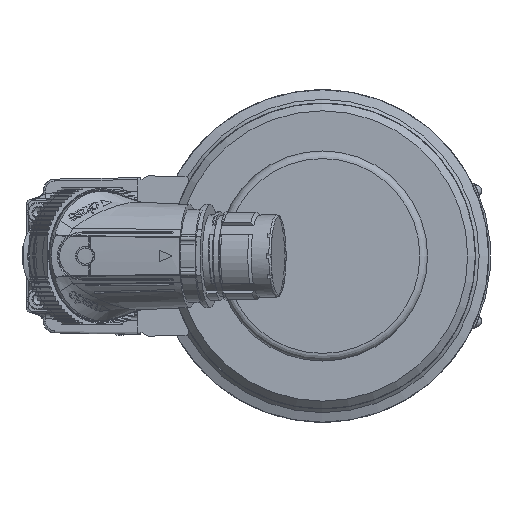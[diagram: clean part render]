
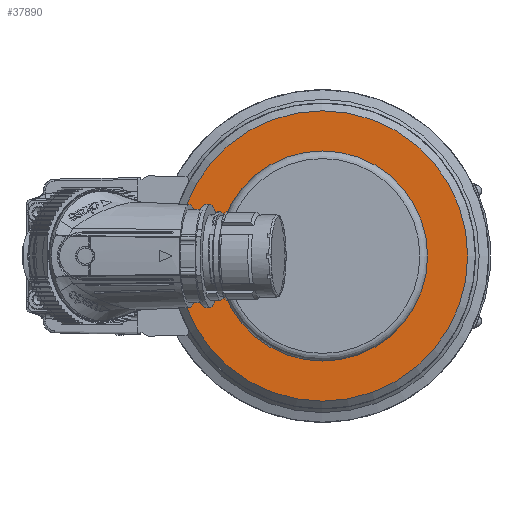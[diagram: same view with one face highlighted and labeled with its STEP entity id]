
A CAD part, left-side view. The second image highlights one B-rep face of the part: STEP entity #37890.
In plain terms, the highlighted planar face has unit normal (-1, 0, 0).
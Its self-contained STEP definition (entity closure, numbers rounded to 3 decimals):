
#781 = CARTESIAN_POINT ( 'NONE',  ( -392.7, 0., 0. ) ) ;
#2156 = CIRCLE ( 'NONE', #12095, 37.999 ) ;
#7287 = CARTESIAN_POINT ( 'NONE',  ( -392.7, 27.5, 0. ) ) ;
#7598 = DIRECTION ( 'NONE',  ( 0., 0., 1. ) ) ;
#10187 = CARTESIAN_POINT ( 'NONE',  ( -392.7, 0., 0. ) ) ;
#10944 = ORIENTED_EDGE ( 'NONE', *, *, #39646, .T. ) ;
#12095 = AXIS2_PLACEMENT_3D ( 'NONE', #781, #47289, #7598 ) ;
#13875 = FACE_OUTER_BOUND ( 'NONE', #35272, .T. ) ;
#14104 = FACE_BOUND ( 'NONE', #85356, .T. ) ;
#16943 = DIRECTION ( 'NONE',  ( 0., 0., -1. ) ) ;
#22906 = ORIENTED_EDGE ( 'NONE', *, *, #39139, .T. ) ;
#26386 = VERTEX_POINT ( 'NONE', #83249 ) ;
#27287 = VERTEX_POINT ( 'NONE', #69708 ) ;
#31062 = AXIS2_PLACEMENT_3D ( 'NONE', #10187, #56449, #16943 ) ;
#34083 = DIRECTION ( 'NONE',  ( 0., 0., 1. ) ) ;
#35272 = EDGE_LOOP ( 'NONE', ( #22906 ) ) ;
#37890 = ADVANCED_FACE ( 'NONE', ( #13875, #14104 ), #53610, .T. ) ;
#39139 = EDGE_CURVE ( 'NONE', #27287, #27287, #2156, .T. ) ;
#39646 = EDGE_CURVE ( 'NONE', #26386, #26386, #83983, .T. ) ;
#47289 = DIRECTION ( 'NONE',  ( -1., 0., 0. ) ) ;
#53610 = PLANE ( 'NONE',  #69186 ) ;
#56449 = DIRECTION ( 'NONE',  ( 1., 0., 0. ) ) ;
#69186 = AXIS2_PLACEMENT_3D ( 'NONE', #7287, #73807, #34083 ) ;
#69708 = CARTESIAN_POINT ( 'NONE',  ( -392.7, 0., 37.999 ) ) ;
#73807 = DIRECTION ( 'NONE',  ( -1., 0., 0. ) ) ;
#83249 = CARTESIAN_POINT ( 'NONE',  ( -392.7, 0., -27.5 ) ) ;
#83983 = CIRCLE ( 'NONE', #31062, 27.5 ) ;
#85356 = EDGE_LOOP ( 'NONE', ( #10944 ) ) ;
